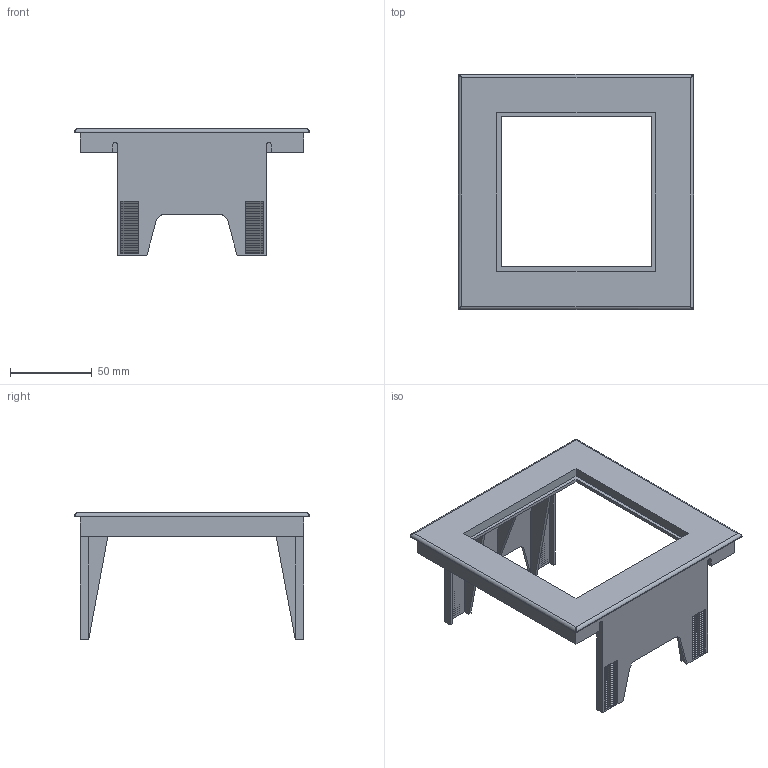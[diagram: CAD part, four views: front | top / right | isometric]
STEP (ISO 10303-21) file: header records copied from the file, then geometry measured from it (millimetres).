
FILE_DESCRIPTION((''),'2;1');
FILE_NAME('144X144_TO_96X96_ADAPTER_IGESFI','2012-04-04T',('chrisloe'),(''),'PRO/ENGINEER BY PARAMETRIC TECHNOLOGY CORPORATION, 2010180','PRO/ENGINEER BY PARAMETRIC TECHNOLOGY CORPORATION, 2010180','');
FILE_SCHEMA(('CONFIG_CONTROL_DESIGN'));
Length unit declared in the file: millimetre
Products named in the file (1): 144X144_TO_96X96_ADAPTER_IGESFI
Bounding box: 144 x 144 x 77.5 mm (x, y, z)
Volume: 77831.1 mm3; surface area: 81580 mm2
Topology: 1 solids, 1 shells, 1017 faces, 2898 edges, 1924 vertices
Faces by surface type: plane 965, cylinder 48, bspline 4
Entity records: 33140 total; most frequent: CARTESIAN_POINT 6553, ORIENTED_EDGE 5796, DIRECTION 4984, EDGE_CURVE 2898, VECTOR 2798, LINE 2798, VERTEX_POINT 1924, AXIS2_PLACEMENT_3D 1093
